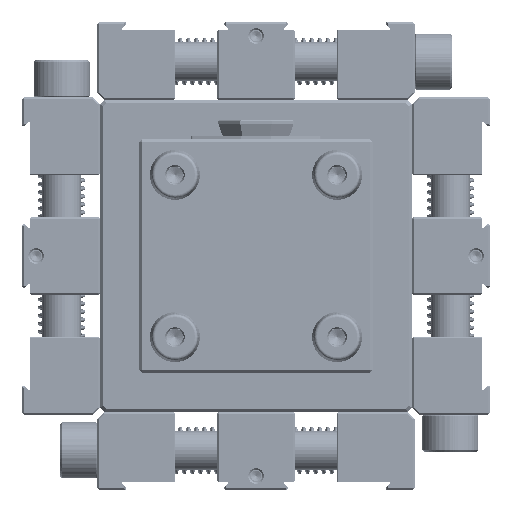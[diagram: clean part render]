
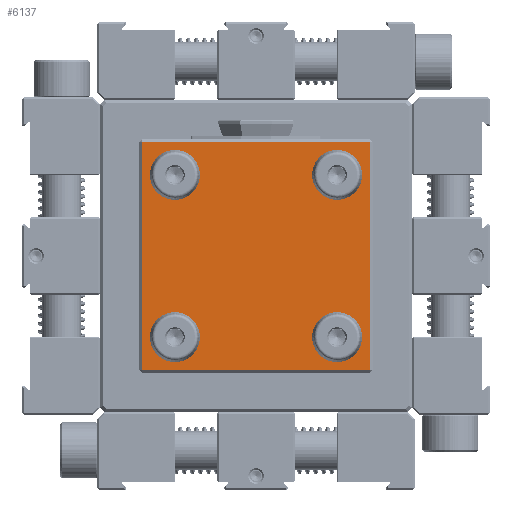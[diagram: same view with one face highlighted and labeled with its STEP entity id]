
A CAD part, front view. The second image highlights one B-rep face of the part: STEP entity #6137.
In plain terms, the highlighted planar face has unit normal (0, -1, 0).
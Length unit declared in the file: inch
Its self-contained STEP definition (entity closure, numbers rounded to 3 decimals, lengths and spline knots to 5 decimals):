
#482 = CARTESIAN_POINT ( 'NONE',  ( 1.02362, 0., 0.7472 ) ) ;
#840 = VECTOR ( 'NONE', #35676, 39.37008 ) ;
#1599 = EDGE_CURVE ( 'NONE', #42821, #43481, #38554, .T. ) ;
#1613 = CARTESIAN_POINT ( 'NONE',  ( -1.02362, 0., 1.02362 ) ) ;
#2312 = VERTEX_POINT ( 'NONE', #54972 ) ;
#2673 = FACE_OUTER_BOUND ( 'NONE', #29668, .T. ) ;
#3026 = ORIENTED_EDGE ( 'NONE', *, *, #43720, .T. ) ;
#3407 = EDGE_LOOP ( 'NONE', ( #45702, #48539 ) ) ;
#4280 = DIRECTION ( 'NONE',  ( 0., 0., -1. ) ) ;
#4426 = EDGE_CURVE ( 'NONE', #35954, #41854, #36869, .T. ) ;
#6137 = ADVANCED_FACE ( 'NONE', ( #20351, #15792, #45291, #37009, #2673 ), #45893, .T. ) ;
#6260 = LINE ( 'NONE', #41497, #23445 ) ;
#6755 = ORIENTED_EDGE ( 'NONE', *, *, #4426, .T. ) ;
#8770 = CIRCLE ( 'NONE', #37158, 0.27642 ) ;
#9218 = CARTESIAN_POINT ( 'NONE',  ( 1.02362, 0., 1.02362 ) ) ;
#9432 = DIRECTION ( 'NONE',  ( 0., 1., 0. ) ) ;
#9484 = VERTEX_POINT ( 'NONE', #482 ) ;
#9709 = CARTESIAN_POINT ( 'NONE',  ( 1.02362, 0., -1.02362 ) ) ;
#9967 = DIRECTION ( 'NONE',  ( 0., 0., -1. ) ) ;
#10310 = EDGE_LOOP ( 'NONE', ( #33496, #3026 ) ) ;
#10401 = CARTESIAN_POINT ( 'NONE',  ( 1.43638, 0., 0. ) ) ;
#12307 = CIRCLE ( 'NONE', #33364, 0.27642 ) ;
#12373 = CIRCLE ( 'NONE', #44410, 0.27642 ) ;
#12460 = EDGE_CURVE ( 'NONE', #9484, #2312, #8770, .T. ) ;
#13179 = ORIENTED_EDGE ( 'NONE', *, *, #52575, .T. ) ;
#14068 = CIRCLE ( 'NONE', #26896, 0.27642 ) ;
#14096 = VERTEX_POINT ( 'NONE', #33408 ) ;
#14917 = DIRECTION ( 'NONE',  ( 0., -1., 0. ) ) ;
#15121 = CARTESIAN_POINT ( 'NONE',  ( -1.43638, 0., -1.43638 ) ) ;
#15228 = ORIENTED_EDGE ( 'NONE', *, *, #15864, .T. ) ;
#15298 = EDGE_LOOP ( 'NONE', ( #44445, #37998 ) ) ;
#15602 = EDGE_CURVE ( 'NONE', #14096, #33279, #48132, .T. ) ;
#15792 = FACE_BOUND ( 'NONE', #29098, .T. ) ;
#15864 = EDGE_CURVE ( 'NONE', #43481, #35954, #6260, .T. ) ;
#16201 = VECTOR ( 'NONE', #45937, 39.37008 ) ;
#16691 = DIRECTION ( 'NONE',  ( 0., 0., -1. ) ) ;
#17302 = VERTEX_POINT ( 'NONE', #43482 ) ;
#19495 = CARTESIAN_POINT ( 'NONE',  ( 1.02362, 0., 1.02362 ) ) ;
#19644 = CARTESIAN_POINT ( 'NONE',  ( 0., 0., -1.43638 ) ) ;
#20351 = FACE_BOUND ( 'NONE', #10310, .T. ) ;
#21029 = CARTESIAN_POINT ( 'NONE',  ( 1.43638, 0., -1.43638 ) ) ;
#21046 = CARTESIAN_POINT ( 'NONE',  ( 1.02362, 0., -0.7472 ) ) ;
#21845 = DIRECTION ( 'NONE',  ( 0., 1., 0. ) ) ;
#21897 = AXIS2_PLACEMENT_3D ( 'NONE', #9709, #9432, #4280 ) ;
#22478 = DIRECTION ( 'NONE',  ( 0., 0., -1. ) ) ;
#22908 = EDGE_CURVE ( 'NONE', #52486, #17302, #12307, .T. ) ;
#23328 = ORIENTED_EDGE ( 'NONE', *, *, #40484, .T. ) ;
#23445 = VECTOR ( 'NONE', #9967, 39.37008 ) ;
#24052 = DIRECTION ( 'NONE',  ( 0., 1., 0. ) ) ;
#24571 = DIRECTION ( 'NONE',  ( 0., 0., -1. ) ) ;
#25223 = VERTEX_POINT ( 'NONE', #38889 ) ;
#26896 = AXIS2_PLACEMENT_3D ( 'NONE', #41218, #46355, #24571 ) ;
#28042 = AXIS2_PLACEMENT_3D ( 'NONE', #19495, #28978, #37003 ) ;
#28978 = DIRECTION ( 'NONE',  ( 0., 1., 0. ) ) ;
#29030 = CARTESIAN_POINT ( 'NONE',  ( -1.02362, 0., -1.30004 ) ) ;
#29098 = EDGE_LOOP ( 'NONE', ( #46759, #23328 ) ) ;
#29212 = VECTOR ( 'NONE', #37160, 39.37008 ) ;
#29234 = DIRECTION ( 'NONE',  ( 0., 0., -1. ) ) ;
#29668 = EDGE_LOOP ( 'NONE', ( #33398, #15228, #6755, #13179 ) ) ;
#31111 = DIRECTION ( 'NONE',  ( 0., 1., 0. ) ) ;
#32579 = CIRCLE ( 'NONE', #34404, 0.27642 ) ;
#33279 = VERTEX_POINT ( 'NONE', #21046 ) ;
#33364 = AXIS2_PLACEMENT_3D ( 'NONE', #43649, #21845, #38785 ) ;
#33398 = ORIENTED_EDGE ( 'NONE', *, *, #1599, .T. ) ;
#33408 = CARTESIAN_POINT ( 'NONE',  ( 1.02362, 0., -1.30004 ) ) ;
#33496 = ORIENTED_EDGE ( 'NONE', *, *, #22908, .T. ) ;
#33556 = EDGE_CURVE ( 'NONE', #35278, #25223, #12373, .T. ) ;
#34404 = AXIS2_PLACEMENT_3D ( 'NONE', #42019, #55681, #16691 ) ;
#35278 = VERTEX_POINT ( 'NONE', #43899 ) ;
#35676 = DIRECTION ( 'NONE',  ( -1., 0., 0. ) ) ;
#35954 = VERTEX_POINT ( 'NONE', #15121 ) ;
#36869 = LINE ( 'NONE', #19644, #29212 ) ;
#36963 = CARTESIAN_POINT ( 'NONE',  ( 1.02362, 0., -1.02362 ) ) ;
#37003 = DIRECTION ( 'NONE',  ( 0., 0., -1. ) ) ;
#37009 = FACE_BOUND ( 'NONE', #3407, .T. ) ;
#37031 = EDGE_CURVE ( 'NONE', #2312, #9484, #38140, .T. ) ;
#37158 = AXIS2_PLACEMENT_3D ( 'NONE', #9218, #42433, #29234 ) ;
#37160 = DIRECTION ( 'NONE',  ( 1., 0., 0. ) ) ;
#37998 = ORIENTED_EDGE ( 'NONE', *, *, #37031, .T. ) ;
#38140 = CIRCLE ( 'NONE', #28042, 0.27642 ) ;
#38375 = CARTESIAN_POINT ( 'NONE',  ( 1.43638, 0., 1.43638 ) ) ;
#38554 = LINE ( 'NONE', #48561, #840 ) ;
#38785 = DIRECTION ( 'NONE',  ( 0., 0., -1. ) ) ;
#38889 = CARTESIAN_POINT ( 'NONE',  ( -1.02362, 0., 1.30004 ) ) ;
#39147 = CARTESIAN_POINT ( 'NONE',  ( -1.43638, 0., 1.43638 ) ) ;
#39893 = AXIS2_PLACEMENT_3D ( 'NONE', #36963, #24052, #41570 ) ;
#40484 = EDGE_CURVE ( 'NONE', #33279, #14096, #51235, .T. ) ;
#41218 = CARTESIAN_POINT ( 'NONE',  ( -1.02362, 0., 1.02362 ) ) ;
#41497 = CARTESIAN_POINT ( 'NONE',  ( -1.43638, 0., 0. ) ) ;
#41570 = DIRECTION ( 'NONE',  ( 0., 0., -1. ) ) ;
#41660 = LINE ( 'NONE', #10401, #16201 ) ;
#41854 = VERTEX_POINT ( 'NONE', #21029 ) ;
#42019 = CARTESIAN_POINT ( 'NONE',  ( -1.02362, 0., -1.02362 ) ) ;
#42433 = DIRECTION ( 'NONE',  ( 0., 1., 0. ) ) ;
#42821 = VERTEX_POINT ( 'NONE', #38375 ) ;
#43481 = VERTEX_POINT ( 'NONE', #39147 ) ;
#43482 = CARTESIAN_POINT ( 'NONE',  ( -1.02362, 0., -0.7472 ) ) ;
#43649 = CARTESIAN_POINT ( 'NONE',  ( -1.02362, 0., -1.02362 ) ) ;
#43720 = EDGE_CURVE ( 'NONE', #17302, #52486, #32579, .T. ) ;
#43899 = CARTESIAN_POINT ( 'NONE',  ( -1.02362, 0., 0.7472 ) ) ;
#44410 = AXIS2_PLACEMENT_3D ( 'NONE', #1613, #31111, #22478 ) ;
#44445 = ORIENTED_EDGE ( 'NONE', *, *, #12460, .T. ) ;
#45291 = FACE_BOUND ( 'NONE', #15298, .T. ) ;
#45702 = ORIENTED_EDGE ( 'NONE', *, *, #33556, .T. ) ;
#45893 = PLANE ( 'NONE',  #52302 ) ;
#45937 = DIRECTION ( 'NONE',  ( 0., 0., 1. ) ) ;
#46355 = DIRECTION ( 'NONE',  ( 0., 1., 0. ) ) ;
#46759 = ORIENTED_EDGE ( 'NONE', *, *, #15602, .T. ) ;
#48132 = CIRCLE ( 'NONE', #39893, 0.27642 ) ;
#48539 = ORIENTED_EDGE ( 'NONE', *, *, #53755, .T. ) ;
#48561 = CARTESIAN_POINT ( 'NONE',  ( 0., 0., 1.43638 ) ) ;
#50209 = CARTESIAN_POINT ( 'NONE',  ( 0., 0., 0. ) ) ;
#51235 = CIRCLE ( 'NONE', #21897, 0.27642 ) ;
#52302 = AXIS2_PLACEMENT_3D ( 'NONE', #50209, #14917, #54183 ) ;
#52486 = VERTEX_POINT ( 'NONE', #29030 ) ;
#52575 = EDGE_CURVE ( 'NONE', #41854, #42821, #41660, .T. ) ;
#53755 = EDGE_CURVE ( 'NONE', #25223, #35278, #14068, .T. ) ;
#54183 = DIRECTION ( 'NONE',  ( 0., 0., -1. ) ) ;
#54972 = CARTESIAN_POINT ( 'NONE',  ( 1.02362, 0., 1.30004 ) ) ;
#55681 = DIRECTION ( 'NONE',  ( 0., 1., 0. ) ) ;
